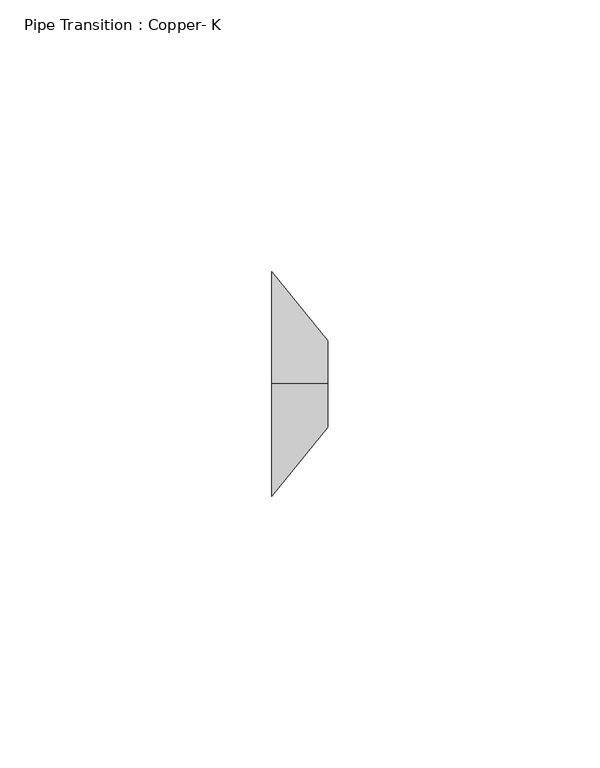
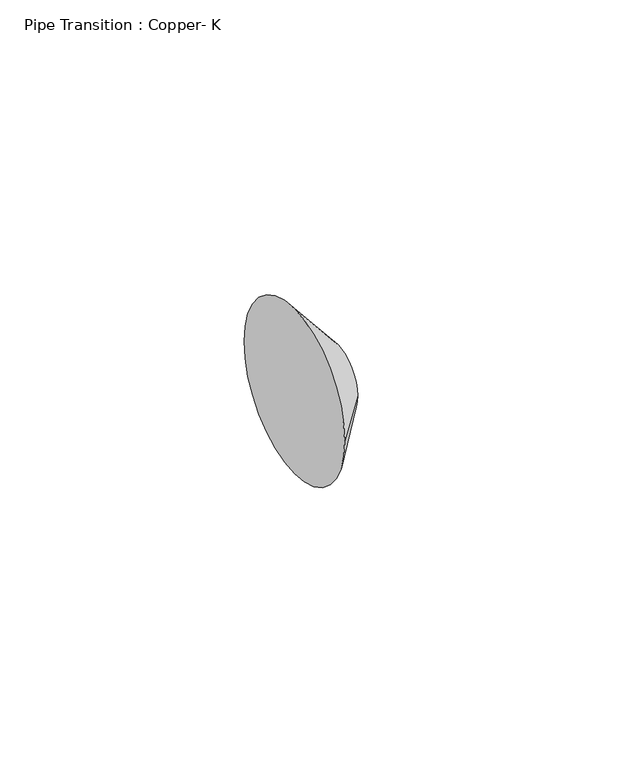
"""IFC4 building model written with IfcOpenShell, lengths in millimetres: pipe fitting geometry, Pipe Transition : Copper- K."""

from ifc_helpers import new_model, si_unit, frame, origin, place, context, project, spatial, circle_curve, source, transform, mapped, element, save
from ifc_brep_helpers import plane_surface, spline_surface, advanced_brep


def pipe_transition_copper_k_15e78aa1(model_context):
    return source(origin(), model_context, "Body", "AdvancedBrep", [
        advanced_brep(
        [(10.31875, 0.0, 7.9712899), (10.31875, -7.9375, 0.0337899), (10.31875, 0.0, -7.9037101), (10.31875, 7.9375, 0.0337899), (0.0, 0.0, 20.6375), (0.0, 20.6375, 0.0), (0.0, 0.0, -20.6375), (0.0, -20.6375, 0.0)],
        [
            (0, 1, circle_curve(frame((10.31875, 0.0, 0.0337899), z_axis=(1.0, 0.0, 0.0), x_axis=(0.0, 1.0, 0.0)), 7.9375)),
            (1, 2, circle_curve(frame((10.31875, 0.0, 0.0337899), z_axis=(1.0, 0.0, 0.0), x_axis=(0.0, 1.0, 0.0)), 7.9375)),
            (2, 3, circle_curve(frame((10.31875, 0.0, 0.0337899), z_axis=(1.0, 0.0, 0.0), x_axis=(0.0, 1.0, 0.0)), 7.9375)),
            (3, 0, circle_curve(frame((10.31875, 0.0, 0.0337899), z_axis=(1.0, 0.0, 0.0), x_axis=(0.0, 1.0, 0.0)), 7.9375)),
            (4, 5, circle_curve(frame((0.0, 0.0, 0.0), z_axis=(-1.0, 0.0, 0.0), x_axis=(0.0, 1.0, 0.0)), 20.6375)),
            (5, 6, circle_curve(frame((0.0, 0.0, 0.0), z_axis=(-1.0, 0.0, 0.0), x_axis=(0.0, 1.0, 0.0)), 20.6375)),
            (6, 7, circle_curve(frame((0.0, 0.0, 0.0), z_axis=(-1.0, 0.0, 0.0), x_axis=(0.0, 1.0, 0.0)), 20.6375)),
            (7, 4, circle_curve(frame((0.0, 0.0, 0.0), z_axis=(-1.0, 0.0, 0.0), x_axis=(0.0, 1.0, 0.0)), 20.6375)),
            (7, 1),
            (0, 4),
            (6, 2),
            (5, 3),
        ],
        [
            plane_surface(frame((10.31875, 0.0, 0.0337899), z_axis=(1.0, 0.0, 0.0), x_axis=(0.0, -1.0, 0.0))),
            plane_surface(frame((0.0, 0.0, 0.0), z_axis=(-1.0, 0.0, 0.0), x_axis=(0.0, -1.0, 0.0))),
            spline_surface(2, 1, [[(0.0, 0.0, 20.6375), (10.31875, 0.0, 7.9712899)], [(0.0, -20.6375, 20.6375), (10.31875, -7.9375, 7.9712899)], [(0.0, -20.6375, 0.0), (10.31875, -7.9375, 0.0337899)]], [3, 3], [2, 2], [0.0, 1.0], [0.0, 1.0], weights=[[1.0, 1.0], [0.7071067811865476, 0.7071067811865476], [1.0, 1.0]]),
            spline_surface(2, 1, [[(0.0, -20.6375, 0.0), (10.31875, -7.9375, 0.0337899)], [(0.0, -20.6375, -20.6375), (10.31875, -7.9375, -7.9037101)], [(0.0, 0.0, -20.6375), (10.31875, 0.0, -7.9037101)]], [3, 3], [2, 2], [0.0, 1.0], [0.0, 1.0], weights=[[1.0, 1.0], [0.7071067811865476, 0.7071067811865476], [1.0, 1.0]]),
            spline_surface(2, 1, [[(0.0, 0.0, -20.6375), (10.31875, 0.0, -7.9037101)], [(0.0, 20.6375, -20.6375), (10.31875, 7.9375, -7.9037101)], [(0.0, 20.6375, 0.0), (10.31875, 7.9375, 0.0337899)]], [3, 3], [2, 2], [0.0, 1.0], [0.0, 1.0], weights=[[1.0, 1.0], [0.7071067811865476, 0.7071067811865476], [1.0, 1.0]]),
            spline_surface(2, 1, [[(0.0, 20.6375, 0.0), (10.31875, 7.9375, 0.0337899)], [(0.0, 20.6375, 20.6375), (10.31875, 7.9375, 7.9712899)], [(0.0, 0.0, 20.6375), (10.31875, 0.0, 7.9712899)]], [3, 3], [2, 2], [0.0, 1.0], [0.0, 1.0], weights=[[1.0, 1.0], [0.7071067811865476, 0.7071067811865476], [1.0, 1.0]]),
        ],
        [
            (0, [[1, 2, 3, 4]]),
            (1, [[5, 6, 7, 8]]),
            (2, [[-8, 9, -1, 10]]),
            (3, [[-7, 11, -2, -9]]),
            (4, [[-6, 12, -3, -11]]),
            (5, [[-5, -10, -4, -12]]),
        ],
    ),
        advanced_brep(
        [(10.31875, 0.0, 7.9712899), (10.31875, -7.9375, 0.0337899), (10.31875, 0.0, -7.9037101), (10.31875, 7.9375, 0.0337899), (0.0, 0.0, 20.6375), (0.0, 20.6375, 0.0), (0.0, 0.0, -20.6375), (0.0, -20.6375, 0.0)],
        [
            (0, 1, circle_curve(frame((10.31875, 0.0, 0.0337899), z_axis=(1.0, 0.0, 0.0), x_axis=(0.0, 1.0, 0.0)), 7.9375)),
            (1, 2, circle_curve(frame((10.31875, 0.0, 0.0337899), z_axis=(1.0, 0.0, 0.0), x_axis=(0.0, 1.0, 0.0)), 7.9375)),
            (2, 3, circle_curve(frame((10.31875, 0.0, 0.0337899), z_axis=(1.0, 0.0, 0.0), x_axis=(0.0, 1.0, 0.0)), 7.9375)),
            (3, 0, circle_curve(frame((10.31875, 0.0, 0.0337899), z_axis=(1.0, 0.0, 0.0), x_axis=(0.0, 1.0, 0.0)), 7.9375)),
            (4, 5, circle_curve(frame((0.0, 0.0, 0.0), z_axis=(-1.0, 0.0, 0.0), x_axis=(0.0, 1.0, 0.0)), 20.6375)),
            (5, 6, circle_curve(frame((0.0, 0.0, 0.0), z_axis=(-1.0, 0.0, 0.0), x_axis=(0.0, 1.0, 0.0)), 20.6375)),
            (6, 7, circle_curve(frame((0.0, 0.0, 0.0), z_axis=(-1.0, 0.0, 0.0), x_axis=(0.0, 1.0, 0.0)), 20.6375)),
            (7, 4, circle_curve(frame((0.0, 0.0, 0.0), z_axis=(-1.0, 0.0, 0.0), x_axis=(0.0, 1.0, 0.0)), 20.6375)),
            (7, 1),
            (0, 4),
            (6, 2),
            (5, 3),
        ],
        [
            plane_surface(frame((10.31875, 0.0, 0.0337899), z_axis=(1.0, 0.0, 0.0), x_axis=(0.0, -1.0, 0.0))),
            plane_surface(frame((0.0, 0.0, 0.0), z_axis=(-1.0, 0.0, 0.0), x_axis=(0.0, -1.0, 0.0))),
            spline_surface(2, 1, [[(0.0, 0.0, 20.6375), (10.31875, 0.0, 7.9712899)], [(0.0, -20.6375, 20.6375), (10.31875, -7.9375, 7.9712899)], [(0.0, -20.6375, 0.0), (10.31875, -7.9375, 0.0337899)]], [3, 3], [2, 2], [0.0, 1.0], [0.0, 1.0], weights=[[1.0, 1.0], [0.7071067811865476, 0.7071067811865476], [1.0, 1.0]]),
            spline_surface(2, 1, [[(0.0, -20.6375, 0.0), (10.31875, -7.9375, 0.0337899)], [(0.0, -20.6375, -20.6375), (10.31875, -7.9375, -7.9037101)], [(0.0, 0.0, -20.6375), (10.31875, 0.0, -7.9037101)]], [3, 3], [2, 2], [0.0, 1.0], [0.0, 1.0], weights=[[1.0, 1.0], [0.7071067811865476, 0.7071067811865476], [1.0, 1.0]]),
            spline_surface(2, 1, [[(0.0, 0.0, -20.6375), (10.31875, 0.0, -7.9037101)], [(0.0, 20.6375, -20.6375), (10.31875, 7.9375, -7.9037101)], [(0.0, 20.6375, 0.0), (10.31875, 7.9375, 0.0337899)]], [3, 3], [2, 2], [0.0, 1.0], [0.0, 1.0], weights=[[1.0, 1.0], [0.7071067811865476, 0.7071067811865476], [1.0, 1.0]]),
            spline_surface(2, 1, [[(0.0, 20.6375, 0.0), (10.31875, 7.9375, 0.0337899)], [(0.0, 20.6375, 20.6375), (10.31875, 7.9375, 7.9712899)], [(0.0, 0.0, 20.6375), (10.31875, 0.0, 7.9712899)]], [3, 3], [2, 2], [0.0, 1.0], [0.0, 1.0], weights=[[1.0, 1.0], [0.7071067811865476, 0.7071067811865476], [1.0, 1.0]]),
        ],
        [
            (0, [[1, 2, 3, 4]]),
            (1, [[5, 6, 7, 8]]),
            (2, [[-8, 9, -1, 10]]),
            (3, [[-7, 11, -2, -9]]),
            (4, [[-6, 12, -3, -11]]),
            (5, [[-5, -10, -4, -12]]),
        ],
    ),
    ])


if __name__ == "__main__":
    model = new_model("IFC4")
    model_context = context("Model", 3, world=origin())
    ifc_project = project(units=[si_unit("LENGTHUNIT", "METRE", prefix="MILLI")], contexts=[model_context])
    site = spatial("IfcSite", under=ifc_project)
    building = spatial("IfcBuilding", under=site)
    placement = place(None, origin())
    pipe_transition_copper_k_shape = pipe_transition_copper_k_15e78aa1(model_context)
    element("IfcPipeFitting", 1, ObjectType="Pipe Transition : Copper- K", at=placement, inside=building, context=model_context, shape_type="MappedRepresentation", body=[
        mapped(pipe_transition_copper_k_shape, transform((0.0, 0.0, 0.0), x_axis=(1.0, 0.0, 0.0), y_axis=(0.0, 1.0, 0.0), z_axis=(0.0, 0.0, 1.0))),
    ])
    save(model, "model.ifc")
